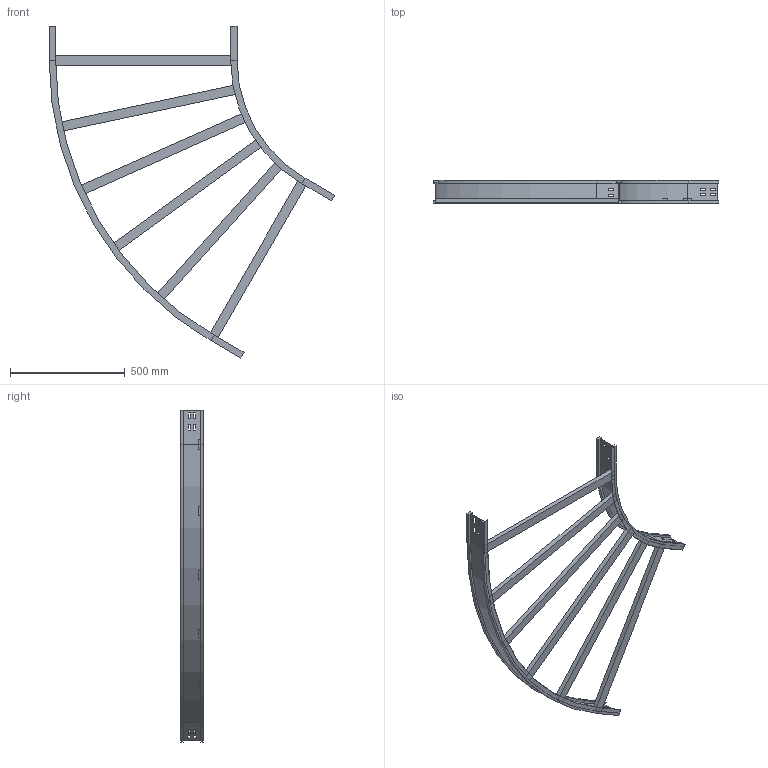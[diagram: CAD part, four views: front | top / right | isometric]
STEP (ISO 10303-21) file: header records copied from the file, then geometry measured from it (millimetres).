
FILE_DESCRIPTION (( 'STEP AP214' ), '1' );
FILE_NAME ('13S6D800.step', '2025-02-21T16:07:16', ( '' ), ( '' ), 'SwSTEP 2.0', 'SolidWorks 2023', '' );
FILE_SCHEMA (( 'AUTOMOTIVE_DESIGN' ));
Length unit declared in the file: millimetre
Products named in the file (4): LONGH.ESTERNO 60°_H100_R600+800; 13S6D800; TRAVERSINO_800; LONGH.INTERNO 60°_H100_R600
Assembly tree (8 placements, depth 2):
  13S6D800
    LONGH.INTERNO 60°_H100_R600
    LONGH.ESTERNO 60°_H100_R600+800
    TRAVERSINO_800  x6
Bounding box: 1243.4 x 100 x 1445.23 mm (x, y, z)
Volume: 5296723 mm3; surface area: 1385130.3 mm2
Topology: 8 solids, 8 shells, 176 faces, 432 edges, 272 vertices
Faces by surface type: plane 164, cylinder 12
Entity records: 4501 total; most frequent: CARTESIAN_POINT 761, ORIENTED_EDGE 744, DIRECTION 710, EDGE_CURVE 372, LINE 348, VECTOR 348, VERTEX_POINT 232, AXIS2_PLACEMENT_3D 181
